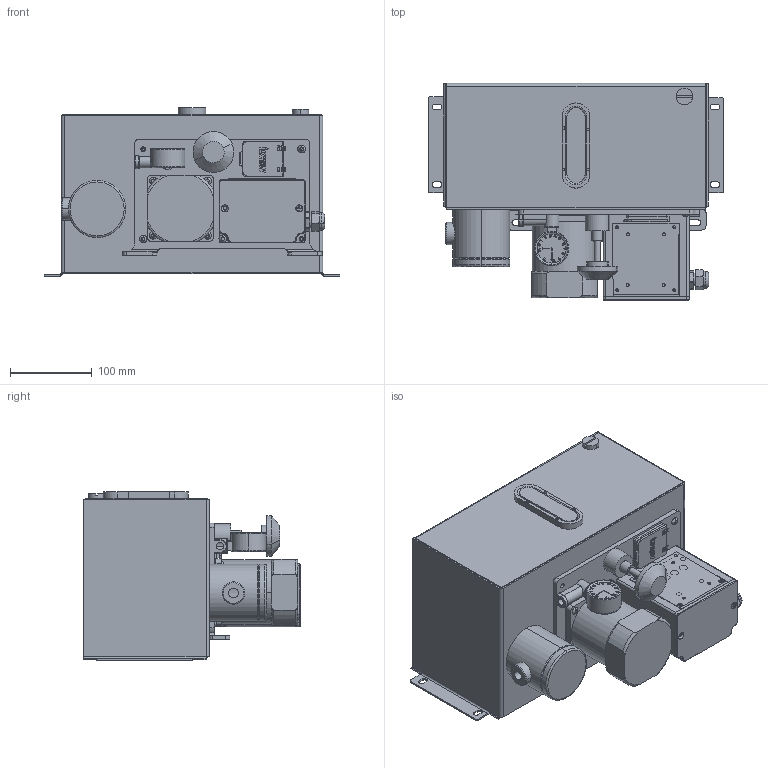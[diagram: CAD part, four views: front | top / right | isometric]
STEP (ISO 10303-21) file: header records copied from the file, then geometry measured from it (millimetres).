
FILE_DESCRIPTION (( 'STEP AP203' ), '1' );
FILE_NAME ('AMG带控制抵坑式8L回油.STEP', '2020-04-13T07:35:31', ( '个人用户' ), ( '微软中国' ), 'SwSTEP 2.0', 'SolidWorks 2018', '' );
FILE_SCHEMA (( 'CONFIG_CONTROL_DESIGN' ));
Length unit declared in the file: millimetre
Products named in the file (1): AMG带控制抵坑式8L回油
Bounding box: 362 x 265.5 x 206 mm (x, y, z)
Surface area: 435335 mm2 (no closed solid volume)
Topology: 0 solids, 42 shells, 554 faces, 2129 edges, 1607 vertices
Faces by surface type: plane 273, cylinder 175, cone 43, bspline 27, torus 22, sphere 14
Entity records: 28241 total; most frequent: CARTESIAN_POINT 10551, DIRECTION 3633, ORIENTED_EDGE 3179, EDGE_CURVE 2129, VERTEX_POINT 1607, LINE 1241, VECTOR 1241, AXIS2_PLACEMENT_3D 1196
